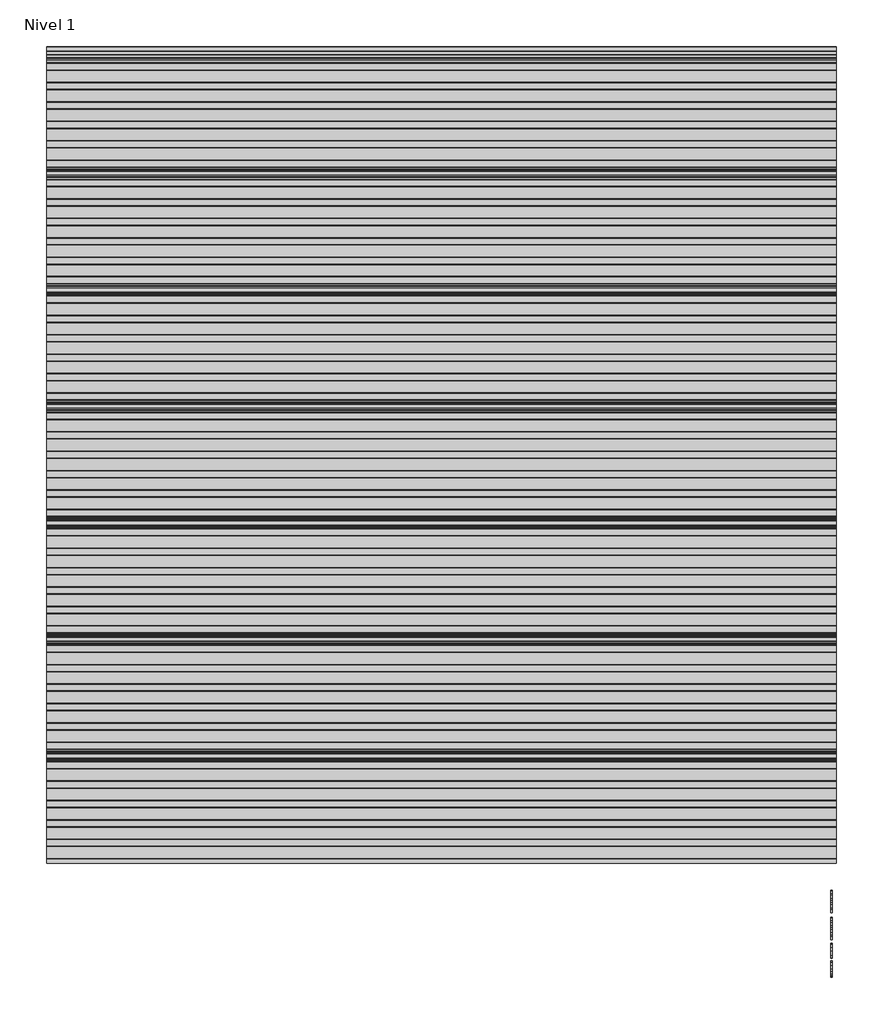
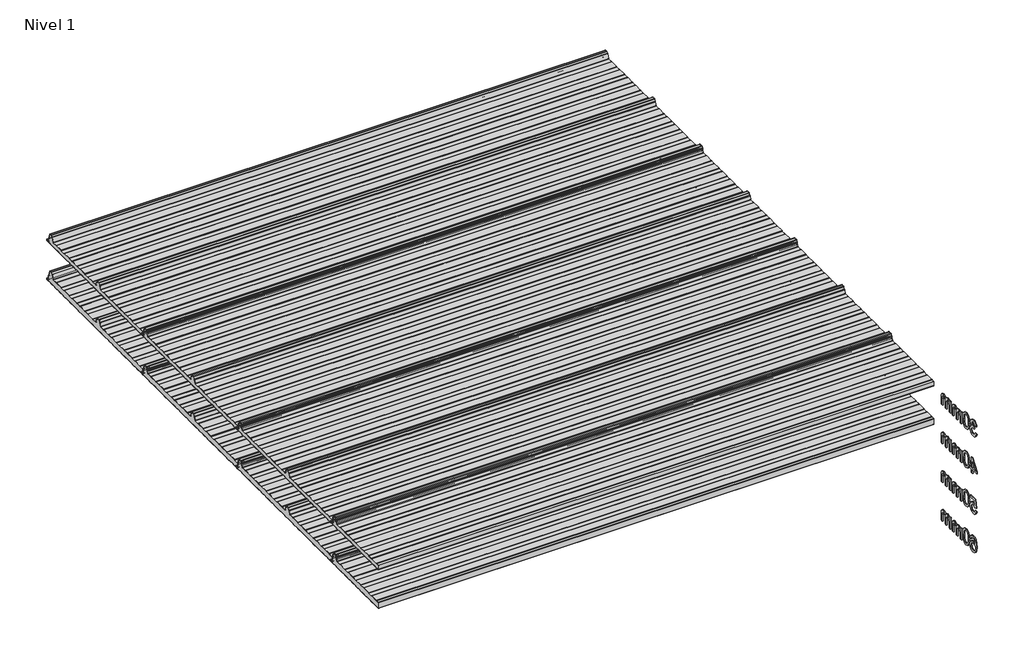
# One storey, incomplete: 8 plates, 4 proxies.
"""IFC4 building model written with IfcOpenShell, lengths in millimetres."""

from ifc_helpers import new_model, si_unit, frame, origin, place, context, project, spatial, polyline, outline, extrude, transform, mapped, element, save
from components import plate_30_mm_89a1664e, plate_30_mm_ab91f54a, plate_30_mm_b6b4653c, plate_40_mm_f33d5fd4, plate_40_mm_e4d21736, plate_40_mm_dbaeaa5f

model = new_model("IFC4")

# Units and contexts
model_context = context("Model", 3, world=origin())
ifc_project = project(units=[si_unit("LENGTHUNIT", "METRE", prefix="MILLI")], contexts=[model_context])

# Site, building, storey
site = spatial("IfcSite", under=ifc_project)
building = spatial("IfcBuilding", under=site)
storey = spatial("IfcBuildingStorey", under=building, Name="Nivel 1", Elevation=0.0)

# Proxies
placement = place(None, origin())
element("IfcBuildingElementProxy", 1, Name="100mm Arial", ObjectType="100mm Arial", at=placement, inside=storey, context=model_context, shape_type="SweptSolid", body=[
    extrude(outline(polyline([(14811.6332666, -40.4578656), (14824.1903054, -38.8882358), (14831.1187496, -52.1074622), (14844.0804586, -56.1541641), (14852.6888973, -54.7623439), (14859.3352987, -50.5868832), (14865.0006814, -36.8035712), (14859.3843496, -23.8173367), (14845.1105282, -18.6792515), (14836.3058858, -20.0526776), (14837.7038373, -7.4956389), (14839.7149256, -7.6427917), (14853.9642215, -4.0375481), (14858.7098993, 0.5364513), (14860.2917918, 7.0479627), (14855.7055296, 16.8704119), (14843.8842549, 20.7576984), (14831.9158273, 16.8336237), (14825.7599352, 5.0613999), (14813.2028965, 6.6310297), (14816.9001105, 17.9066129), (14823.4790669, 26.3249792), (14832.479913, 31.5672976), (14843.4427965, 33.3147371), (14858.5872719, 29.8689091), (14869.1822734, 20.45113), (14872.8488306, 7.7837267), (14869.3662144, -3.7922935), (14859.0655185, -12.1064266), (14872.7507287, -20.6903398), (14877.5577201, -37.0243004), (14875.1542244, -49.2625081), (14867.9437373, -59.4896275), (14857.0605616, -66.405809), (14843.6390002, -68.7112029), (14831.4988943, -66.7430342), (14821.6151314, -60.8385282), (14814.7418695, -51.8070252), (14811.6332666, -40.4578656)])), frame((9557.0230098, 0.0, 0.0), z_axis=(1.0, 0.0, 0.0), x_axis=(0.0, 1.0, 0.0)), (0.0, 0.0, 1.0), 5.0),
    extrude(outline(polyline([(14888.5451291, -17.7227583), (14892.2362118, 11.1805037), (14903.1990952, 27.8455581), (14921.5073558, 33.3147371), (14936.1735847, 30.0773756), (14946.3026023, 20.7454356), (14952.1887142, 5.883003), (14954.4695826, -17.7227583), (14950.8152881, -46.5033931), (14939.8891929, -63.2052357), (14931.6578332, -67.3347111), (14921.5073558, -68.7112029), (14908.4598077, -66.3199699), (14898.5515193, -59.146271), (14891.0467266, -42.1562542), (14888.5451291, -17.7227583)]), holes=[polyline([(14901.1021678, -17.6982329), (14902.5736958, -37.4504303), (14906.9882798, -48.8823633), (14913.5611047, -54.3362139), (14921.5073558, -56.1541641), (14929.4536069, -54.3300825), (14936.0264319, -48.8578379), (14940.4410159, -37.4197735), (14941.9125438, -17.6982329), (14940.4900668, 1.6094405), (14936.2226356, 13.1302783), (14929.6620734, 18.8508433), (14921.360203, 20.7576984), (14913.4997911, 19.0777039), (14907.1844835, 14.0377206), (14902.6227467, 1.7995129), (14901.1021678, -17.6982329)])]), frame((9557.0230098, 0.0, 0.0), z_axis=(1.0, 0.0, 0.0), x_axis=(0.0, 1.0, 0.0)), (0.0, 0.0, 1.0), 5.0),
    extrude(outline(polyline([(14968.5962512, -67.141573), (14968.5962512, 6.6310297), (14981.15329, 6.6310297), (14981.15329, -5.5090761), (14989.7862541, 4.4360005), (15002.0735128, 8.2006596), (15014.655077, 4.3624241), (15021.5712585, -6.3919929), (15031.3691823, 4.5524965), (15043.7422801, 8.2006596), (15053.181519, 6.6831464), (15060.1620798, 2.1306067), (15064.4754962, -5.5795868), (15065.9133017, -16.5700614), (15065.9133017, -67.141573), (15053.3562629, -67.141573), (15053.3562629, -21.965664), (15052.1913033, -11.4810272), (15047.972923, -6.3184165), (15040.7992241, -4.3563792), (15028.4506518, -9.3840998), (15024.7626348, -15.9262679), (15023.5332958, -25.4973312), (15023.5332958, -67.141573), (15010.9762571, -67.141573), (15010.9762571, -20.5677124), (15008.0699893, -8.4030811), (14998.5418456, -4.3563792), (14989.2466939, -7.0541805), (14983.0662764, -14.9513806), (14981.15329, -29.9364406), (14981.15329, -67.141573), (14968.5962512, -67.141573)])), frame((9557.0230098, 0.0, 0.0), z_axis=(1.0, 0.0, 0.0), x_axis=(0.0, 1.0, 0.0)), (0.0, 0.0, 1.0), 5.0),
    extrude(outline(polyline([(15084.7488598, -67.141573), (15084.7488598, 6.6310297), (15097.3058986, 6.6310297), (15097.3058986, -5.5090761), (15105.9388628, 4.4360005), (15118.2261214, 8.2006596), (15130.8076856, 4.3624241), (15137.7238671, -6.3919929), (15147.5217909, 4.5524965), (15159.8948887, 8.2006596), (15169.3341276, 6.6831464), (15176.3146884, 2.1306067), (15180.6281048, -5.5795868), (15182.0659103, -16.5700614), (15182.0659103, -67.141573), (15169.5088715, -67.141573), (15169.5088715, -21.965664), (15168.3439119, -11.4810272), (15164.1255317, -6.3184165), (15156.9518327, -4.3563792), (15144.6032604, -9.3840998), (15140.9152434, -15.9262679), (15139.6859044, -25.4973312), (15139.6859044, -67.141573), (15127.1288657, -67.141573), (15127.1288657, -20.5677124), (15124.2225979, -8.4030811), (15114.6944542, -4.3563792), (15105.3993025, -7.0541805), (15099.218885, -14.9513806), (15097.3058986, -29.9364406), (15097.3058986, -67.141573), (15084.7488598, -67.141573)])), frame((9557.0230098, 0.0, 0.0), z_axis=(1.0, 0.0, 0.0), x_axis=(0.0, 1.0, 0.0)), (0.0, 0.0, 1.0), 5.0),
])
element("IfcBuildingElementProxy", 2, Name="100mm Arial", ObjectType="100mm Arial", at=placement, inside=storey, context=model_context, shape_type="SweptSolid", body=[
    extrude(outline(polyline([(14852.4436426, -317.141573), (14852.4436426, -293.5971253), (14806.9243771, -293.5971253), (14806.9243771, -281.0400866), (14855.5829023, -218.2548927), (14865.0006814, -218.2548927), (14865.0006814, -281.0400866), (14877.5577201, -281.0400866), (14877.5577201, -293.5971253), (14865.0006814, -293.5971253), (14865.0006814, -317.141573), (14852.4436426, -317.141573)]), holes=[polyline([(14852.4436426, -281.0400866), (14852.4436426, -242.2407988), (14822.3754209, -281.0400866), (14852.4436426, -281.0400866)])]), frame((9557.0230098, 0.0, 0.0), z_axis=(1.0, 0.0, 0.0), x_axis=(0.0, 1.0, 0.0)), (0.0, 0.0, 1.0), 5.0),
    extrude(outline(polyline([(14888.5451291, -267.7227583), (14892.2362118, -238.8194963), (14903.1990952, -222.1544419), (14921.5073558, -216.6852629), (14936.1735847, -219.9226244), (14946.3026023, -229.2545644), (14952.1887142, -244.116997), (14954.4695826, -267.7227583), (14950.8152881, -296.5033931), (14939.8891929, -313.2052357), (14931.6578332, -317.3347111), (14921.5073558, -318.7112029), (14908.4598077, -316.3199699), (14898.5515193, -309.146271), (14891.0467266, -292.1562542), (14888.5451291, -267.7227583)]), holes=[polyline([(14901.1021678, -267.6982329), (14902.5736958, -287.4504303), (14906.9882798, -298.8823633), (14913.5611047, -304.3362139), (14921.5073558, -306.1541641), (14929.4536069, -304.3300825), (14936.0264319, -298.8578379), (14940.4410159, -287.4197735), (14941.9125438, -267.6982329), (14940.4900668, -248.3905595), (14936.2226356, -236.8697217), (14929.6620734, -231.1491567), (14921.360203, -229.2423016), (14913.4997911, -230.9222961), (14907.1844835, -235.9622794), (14902.6227467, -248.2004871), (14901.1021678, -267.6982329)])]), frame((9557.0230098, 0.0, 0.0), z_axis=(1.0, 0.0, 0.0), x_axis=(0.0, 1.0, 0.0)), (0.0, 0.0, 1.0), 5.0),
    extrude(outline(polyline([(14968.5962512, -317.141573), (14968.5962512, -243.3689703), (14981.15329, -243.3689703), (14981.15329, -255.5090761), (14989.7862541, -245.5639995), (15002.0735128, -241.7993404), (15014.655077, -245.6375759), (15021.5712585, -256.3919929), (15031.3691823, -245.4475035), (15043.7422801, -241.7993404), (15053.181519, -243.3168536), (15060.1620798, -247.8693933), (15064.4754962, -255.5795868), (15065.9133017, -266.5700614), (15065.9133017, -317.141573), (15053.3562629, -317.141573), (15053.3562629, -271.965664), (15052.1913033, -261.4810272), (15047.972923, -256.3184165), (15040.7992241, -254.3563792), (15028.4506518, -259.3840998), (15024.7626348, -265.9262679), (15023.5332958, -275.4973312), (15023.5332958, -317.141573), (15010.9762571, -317.141573), (15010.9762571, -270.5677124), (15008.0699893, -258.4030811), (14998.5418456, -254.3563792), (14989.2466939, -257.0541805), (14983.0662764, -264.9513806), (14981.15329, -279.9364406), (14981.15329, -317.141573), (14968.5962512, -317.141573)])), frame((9557.0230098, 0.0, 0.0), z_axis=(1.0, 0.0, 0.0), x_axis=(0.0, 1.0, 0.0)), (0.0, 0.0, 1.0), 5.0),
    extrude(outline(polyline([(15084.7488598, -317.141573), (15084.7488598, -243.3689703), (15097.3058986, -243.3689703), (15097.3058986, -255.5090761), (15105.9388628, -245.5639995), (15118.2261214, -241.7993404), (15130.8076856, -245.6375759), (15137.7238671, -256.3919929), (15147.5217909, -245.4475035), (15159.8948887, -241.7993404), (15169.3341276, -243.3168536), (15176.3146884, -247.8693933), (15180.6281048, -255.5795868), (15182.0659103, -266.5700614), (15182.0659103, -317.141573), (15169.5088715, -317.141573), (15169.5088715, -271.965664), (15168.3439119, -261.4810272), (15164.1255317, -256.3184165), (15156.9518327, -254.3563792), (15144.6032604, -259.3840998), (15140.9152434, -265.9262679), (15139.6859044, -275.4973312), (15139.6859044, -317.141573), (15127.1288657, -317.141573), (15127.1288657, -270.5677124), (15124.2225979, -258.4030811), (15114.6944542, -254.3563792), (15105.3993025, -257.0541805), (15099.218885, -264.9513806), (15097.3058986, -279.9364406), (15097.3058986, -317.141573), (15084.7488598, -317.141573)])), frame((9557.0230098, 0.0, 0.0), z_axis=(1.0, 0.0, 0.0), x_axis=(0.0, 1.0, 0.0)), (0.0, 0.0, 1.0), 5.0),
])
element("IfcBuildingElementProxy", 3, Name="100mm Arial", ObjectType="100mm Arial", at=placement, inside=storey, context=model_context, shape_type="SweptSolid", body=[
    extrude(outline(polyline([(14811.6332666, -540.4578656), (14824.1903054, -538.8882358), (14830.5178757, -551.8254193), (14843.6390002, -556.1541641), (14852.6398463, -554.6489136), (14859.3843496, -550.1331621), (14863.5965984, -543.1280758), (14865.0006814, -534.1548208), (14859.7399688, -519.2433373), (14853.1334213, -515.141453), (14843.8352039, -513.7741583), (14832.8110068, -515.9569248), (14825.7599352, -521.6223075), (14813.2028965, -520.0526776), (14824.1903054, -468.2548927), (14872.8488306, -468.2548927), (14872.8488306, -480.8119315), (14834.3438484, -480.8119315), (14828.9727713, -508.4766575), (14837.9429606, -503.032004), (14847.3423456, -501.2171195), (14859.0747156, -503.467331), (14868.8143914, -510.2179656), (14875.371888, -520.5063988), (14877.5577201, -533.3700059), (14875.5895515, -545.9270446), (14869.6850454, -556.6691989), (14858.3788055, -565.7007019), (14843.5899493, -568.7112029), (14831.2567054, -566.7767567), (14821.4311904, -560.9734182), (14814.6958842, -551.9756378), (14811.6332666, -540.4578656)])), frame((9557.0230098, 0.0, 0.0), z_axis=(1.0, 0.0, 0.0), x_axis=(0.0, 1.0, 0.0)), (0.0, 0.0, 1.0), 5.0),
    extrude(outline(polyline([(14888.5451291, -517.7227583), (14892.2362118, -488.8194963), (14903.1990952, -472.1544419), (14921.5073558, -466.6852629), (14936.1735847, -469.9226244), (14946.3026023, -479.2545644), (14952.1887142, -494.116997), (14954.4695826, -517.7227583), (14950.8152881, -546.5033931), (14939.8891929, -563.2052357), (14931.6578332, -567.3347111), (14921.5073558, -568.7112029), (14908.4598077, -566.3199699), (14898.5515193, -559.146271), (14891.0467266, -542.1562542), (14888.5451291, -517.7227583)]), holes=[polyline([(14901.1021678, -517.6982329), (14902.5736958, -537.4504303), (14906.9882798, -548.8823633), (14913.5611047, -554.3362139), (14921.5073558, -556.1541641), (14929.4536069, -554.3300825), (14936.0264319, -548.8578379), (14940.4410159, -537.4197735), (14941.9125438, -517.6982329), (14940.4900668, -498.3905595), (14936.2226356, -486.8697217), (14929.6620734, -481.1491567), (14921.360203, -479.2423016), (14913.4997911, -480.9222961), (14907.1844835, -485.9622794), (14902.6227467, -498.2004871), (14901.1021678, -517.6982329)])]), frame((9557.0230098, 0.0, 0.0), z_axis=(1.0, 0.0, 0.0), x_axis=(0.0, 1.0, 0.0)), (0.0, 0.0, 1.0), 5.0),
    extrude(outline(polyline([(14968.5962512, -567.141573), (14968.5962512, -493.3689703), (14981.15329, -493.3689703), (14981.15329, -505.5090761), (14989.7862541, -495.5639995), (15002.0735128, -491.7993404), (15014.655077, -495.6375759), (15021.5712585, -506.3919929), (15031.3691823, -495.4475035), (15043.7422801, -491.7993404), (15053.181519, -493.3168536), (15060.1620798, -497.8693933), (15064.4754962, -505.5795868), (15065.9133017, -516.5700614), (15065.9133017, -567.141573), (15053.3562629, -567.141573), (15053.3562629, -521.965664), (15052.1913033, -511.4810272), (15047.972923, -506.3184165), (15040.7992241, -504.3563792), (15028.4506518, -509.3840998), (15024.7626348, -515.9262679), (15023.5332958, -525.4973312), (15023.5332958, -567.141573), (15010.9762571, -567.141573), (15010.9762571, -520.5677124), (15008.0699893, -508.4030811), (14998.5418456, -504.3563792), (14989.2466939, -507.0541805), (14983.0662764, -514.9513806), (14981.15329, -529.9364406), (14981.15329, -567.141573), (14968.5962512, -567.141573)])), frame((9557.0230098, 0.0, 0.0), z_axis=(1.0, 0.0, 0.0), x_axis=(0.0, 1.0, 0.0)), (0.0, 0.0, 1.0), 5.0),
    extrude(outline(polyline([(15084.7488598, -567.141573), (15084.7488598, -493.3689703), (15097.3058986, -493.3689703), (15097.3058986, -505.5090761), (15105.9388628, -495.5639995), (15118.2261214, -491.7993404), (15130.8076856, -495.6375759), (15137.7238671, -506.3919929), (15147.5217909, -495.4475035), (15159.8948887, -491.7993404), (15169.3341276, -493.3168536), (15176.3146884, -497.8693933), (15180.6281048, -505.5795868), (15182.0659103, -516.5700614), (15182.0659103, -567.141573), (15169.5088715, -567.141573), (15169.5088715, -521.965664), (15168.3439119, -511.4810272), (15164.1255317, -506.3184165), (15156.9518327, -504.3563792), (15144.6032604, -509.3840998), (15140.9152434, -515.9262679), (15139.6859044, -525.4973312), (15139.6859044, -567.141573), (15127.1288657, -567.141573), (15127.1288657, -520.5677124), (15124.2225979, -508.4030811), (15114.6944542, -504.3563792), (15105.3993025, -507.0541805), (15099.218885, -514.9513806), (15097.3058986, -529.9364406), (15097.3058986, -567.141573), (15084.7488598, -567.141573)])), frame((9557.0230098, 0.0, 0.0), z_axis=(1.0, 0.0, 0.0), x_axis=(0.0, 1.0, 0.0)), (0.0, 0.0, 1.0), 5.0),
])
element("IfcBuildingElementProxy", 4, Name="100mm Arial", ObjectType="100mm Arial", at=placement, inside=storey, context=model_context, shape_type="SweptSolid", body=[
    extrude(outline(polyline([(14875.9880903, -743.3689703), (14863.4310515, -744.9386001), (14858.6731111, -734.466226), (14846.0915468, -729.2423016), (14834.7607814, -732.2834595), (14826.1891309, -743.7000641), (14822.6206755, -766.0795521), (14833.6939236, -756.0608991), (14847.415922, -752.7867493), (14859.0164676, -755.0246981), (14868.7530777, -761.7385446), (14875.3565595, -771.9963209), (14877.5577201, -784.8660593), (14873.4129163, -802.1933013), (14862.0085745, -814.4560345), (14845.5519866, -818.7112029), (14831.3057563, -815.8907742), (14819.9596624, -807.4294884), (14812.5376432, -792.4934794), (14810.0636368, -770.2488814), (14812.810489, -745.2390371), (14821.0510457, -728.1386557), (14832.3021034, -719.5486111), (14846.8763617, -716.6852629), (14857.8944275, -718.4572278), (14866.717464, -723.7731227), (14872.8978815, -732.2160144), (14875.9880903, -743.3689703)]), holes=[polyline([(14822.6206755, -784.6698556), (14825.5269433, -795.5468999), (14833.2524652, -803.4441001), (14844.5709679, -806.1541641), (14852.8575099, -804.7500812), (14859.3720868, -800.5378323), (14863.5935327, -793.9159564), (14865.0006814, -785.2829922), (14863.6119268, -776.9964503), (14859.4456632, -770.678077), (14852.8207217, -766.6773603), (14844.0559331, -765.3437881), (14828.8624067, -770.678077), (14824.1811083, -776.8431661), (14822.6206755, -784.6698556)])]), frame((9557.0230098, 0.0, 0.0), z_axis=(1.0, 0.0, 0.0), x_axis=(0.0, 1.0, 0.0)), (0.0, 0.0, 1.0), 5.0),
    extrude(outline(polyline([(14888.5451291, -767.7227583), (14892.2362118, -738.8194963), (14903.1990952, -722.1544419), (14921.5073558, -716.6852629), (14936.1735847, -719.9226244), (14946.3026023, -729.2545644), (14952.1887142, -744.116997), (14954.4695826, -767.7227583), (14950.8152881, -796.5033931), (14939.8891929, -813.2052357), (14931.6578332, -817.3347111), (14921.5073558, -818.7112029), (14908.4598077, -816.3199699), (14898.5515193, -809.146271), (14891.0467266, -792.1562542), (14888.5451291, -767.7227583)]), holes=[polyline([(14901.1021678, -767.6982329), (14902.5736958, -787.4504303), (14906.9882798, -798.8823633), (14913.5611047, -804.3362139), (14921.5073558, -806.1541641), (14929.4536069, -804.3300825), (14936.0264319, -798.8578379), (14940.4410159, -787.4197735), (14941.9125438, -767.6982329), (14940.4900668, -748.3905595), (14936.2226356, -736.8697217), (14929.6620734, -731.1491567), (14921.360203, -729.2423016), (14913.4997911, -730.9222961), (14907.1844835, -735.9622794), (14902.6227467, -748.2004871), (14901.1021678, -767.6982329)])]), frame((9557.0230098, 0.0, 0.0), z_axis=(1.0, 0.0, 0.0), x_axis=(0.0, 1.0, 0.0)), (0.0, 0.0, 1.0), 5.0),
    extrude(outline(polyline([(14968.5962512, -817.141573), (14968.5962512, -743.3689703), (14981.15329, -743.3689703), (14981.15329, -755.5090761), (14989.7862541, -745.5639995), (15002.0735128, -741.7993404), (15014.655077, -745.6375759), (15021.5712585, -756.3919929), (15031.3691823, -745.4475035), (15043.7422801, -741.7993404), (15053.181519, -743.3168536), (15060.1620798, -747.8693933), (15064.4754962, -755.5795868), (15065.9133017, -766.5700614), (15065.9133017, -817.141573), (15053.3562629, -817.141573), (15053.3562629, -771.965664), (15052.1913033, -761.4810272), (15047.972923, -756.3184165), (15040.7992241, -754.3563792), (15028.4506518, -759.3840998), (15024.7626348, -765.9262679), (15023.5332958, -775.4973312), (15023.5332958, -817.141573), (15010.9762571, -817.141573), (15010.9762571, -770.5677124), (15008.0699893, -758.4030811), (14998.5418456, -754.3563792), (14989.2466939, -757.0541805), (14983.0662764, -764.9513806), (14981.15329, -779.9364406), (14981.15329, -817.141573), (14968.5962512, -817.141573)])), frame((9557.0230098, 0.0, 0.0), z_axis=(1.0, 0.0, 0.0), x_axis=(0.0, 1.0, 0.0)), (0.0, 0.0, 1.0), 5.0),
    extrude(outline(polyline([(15084.7488598, -817.141573), (15084.7488598, -743.3689703), (15097.3058986, -743.3689703), (15097.3058986, -755.5090761), (15105.9388628, -745.5639995), (15118.2261214, -741.7993404), (15130.8076856, -745.6375759), (15137.7238671, -756.3919929), (15147.5217909, -745.4475035), (15159.8948887, -741.7993404), (15169.3341276, -743.3168536), (15176.3146884, -747.8693933), (15180.6281048, -755.5795868), (15182.0659103, -766.5700614), (15182.0659103, -817.141573), (15169.5088715, -817.141573), (15169.5088715, -771.965664), (15168.3439119, -761.4810272), (15164.1255317, -756.3184165), (15156.9518327, -754.3563792), (15144.6032604, -759.3840998), (15140.9152434, -765.9262679), (15139.6859044, -775.4973312), (15139.6859044, -817.141573), (15127.1288657, -817.141573), (15127.1288657, -770.5677124), (15124.2225979, -758.4030811), (15114.6944542, -754.3563792), (15105.3993025, -757.0541805), (15099.218885, -764.9513806), (15097.3058986, -779.9364406), (15097.3058986, -817.141573), (15084.7488598, -817.141573)])), frame((9557.0230098, 0.0, 0.0), z_axis=(1.0, 0.0, 0.0), x_axis=(0.0, 1.0, 0.0)), (0.0, 0.0, 1.0), 5.0),
])

# Plates
plate_30_mm_shape = plate_30_mm_89a1664e(model_context)
plate_30_mm_2_shape = plate_30_mm_ab91f54a(model_context)
element("IfcPlate", 5, ObjectType="HIANSA PANEL - H20.F01.004-PANELES DE CUBIERTA SIN TAPAJUNTA - EASY CUB 3GR - Panel de Muro Cortina : 30 mm", at=placement, inside=storey, context=model_context, shape_type="MappedRepresentation", body=[
    mapped(plate_30_mm_shape, transform((9579.0356399, 18298.3330794, -29.5962409), x_axis=(0.0, -1.0, 0.0), y_axis=(0.0, 0.0, 1.0), z_axis=(-1.0, 0.0, 0.0))),
    mapped(plate_30_mm_2_shape, transform((9579.0356399, 18298.3330794, -29.5962409), x_axis=(0.0, -1.0, 0.0), y_axis=(0.0, 0.0, 1.0), z_axis=(-1.0, 0.0, 0.0))),
])
element("IfcPlate", 6, ObjectType="HIANSA PANEL - H20.F01.004-PANELES DE CUBIERTA SIN TAPAJUNTA - EASY CUB 3GR - Panel de Muro Cortina : 30 mm", at=placement, inside=storey, context=model_context, shape_type="MappedRepresentation", body=[
    mapped(plate_30_mm_shape, transform((9579.0356399, 17298.3330793, -29.5962409), x_axis=(0.0, -1.0, 0.0), y_axis=(0.0, 0.0, 1.0), z_axis=(-1.0, 0.0, 0.0))),
    mapped(plate_30_mm_2_shape, transform((9579.0356399, 17298.3330793, -29.5962409), x_axis=(0.0, -1.0, 0.0), y_axis=(0.0, 0.0, 1.0), z_axis=(-1.0, 0.0, 0.0))),
])
element("IfcPlate", 7, ObjectType="HIANSA PANEL - H20.F01.004-PANELES DE CUBIERTA SIN TAPAJUNTA - EASY CUB 3GR - Panel de Muro Cortina : 30 mm", at=placement, inside=storey, context=model_context, shape_type="MappedRepresentation", body=[
    mapped(plate_30_mm_shape, transform((9579.0356399, 16298.3330793, -29.5962409), x_axis=(0.0, -1.0, 0.0), y_axis=(0.0, 0.0, 1.0), z_axis=(-1.0, 0.0, 0.0))),
    mapped(plate_30_mm_2_shape, transform((9579.0356399, 16298.3330793, -29.5962409), x_axis=(0.0, -1.0, 0.0), y_axis=(0.0, 0.0, 1.0), z_axis=(-1.0, 0.0, 0.0))),
])
plate_30_mm_3_shape = plate_30_mm_b6b4653c(model_context)
element("IfcPlate", 8, ObjectType="HIANSA PANEL - H20.F01.004-PANELES DE CUBIERTA SIN TAPAJUNTA - EASY CUB 3GR - Panel de Muro Cortina : 30 mm", at=placement, inside=storey, context=model_context, shape_type="MappedRepresentation", body=[
    mapped(plate_30_mm_3_shape, transform((9579.0356399, 15548.3330794, -29.5962409), x_axis=(0.0, -1.0, 0.0), y_axis=(0.0, 0.0, 1.0), z_axis=(-1.0, 0.0, 0.0))),
])
plate_40_mm_shape = plate_40_mm_f33d5fd4(model_context)
plate_40_mm_2_shape = plate_40_mm_e4d21736(model_context)
element("IfcPlate", 9, ObjectType="HIANSA PANEL - H20.F01.004-PANELES DE CUBIERTA SIN TAPAJUNTA - EASY CUB 3GR - Panel de Muro Cortina : 40 mm", at=placement, inside=storey, context=model_context, shape_type="MappedRepresentation", body=[
    mapped(plate_40_mm_shape, transform((9579.0356399, 18298.3330794, -279.5962409), x_axis=(0.0, -1.0, 0.0), y_axis=(0.0, 0.0, 1.0), z_axis=(-1.0, 0.0, 0.0))),
    mapped(plate_40_mm_2_shape, transform((9579.0356399, 18298.3330794, -279.5962409), x_axis=(0.0, -1.0, 0.0), y_axis=(0.0, 0.0, 1.0), z_axis=(-1.0, 0.0, 0.0))),
])
element("IfcPlate", 10, ObjectType="HIANSA PANEL - H20.F01.004-PANELES DE CUBIERTA SIN TAPAJUNTA - EASY CUB 3GR - Panel de Muro Cortina : 40 mm", at=placement, inside=storey, context=model_context, shape_type="MappedRepresentation", body=[
    mapped(plate_40_mm_shape, transform((9579.0356399, 17298.3330793, -279.5962409), x_axis=(0.0, -1.0, 0.0), y_axis=(0.0, 0.0, 1.0), z_axis=(-1.0, 0.0, 0.0))),
    mapped(plate_40_mm_2_shape, transform((9579.0356399, 17298.3330793, -279.5962409), x_axis=(0.0, -1.0, 0.0), y_axis=(0.0, 0.0, 1.0), z_axis=(-1.0, 0.0, 0.0))),
])
element("IfcPlate", 11, ObjectType="HIANSA PANEL - H20.F01.004-PANELES DE CUBIERTA SIN TAPAJUNTA - EASY CUB 3GR - Panel de Muro Cortina : 40 mm", at=placement, inside=storey, context=model_context, shape_type="MappedRepresentation", body=[
    mapped(plate_40_mm_shape, transform((9579.0356399, 16298.3330793, -279.5962409), x_axis=(0.0, -1.0, 0.0), y_axis=(0.0, 0.0, 1.0), z_axis=(-1.0, 0.0, 0.0))),
    mapped(plate_40_mm_2_shape, transform((9579.0356399, 16298.3330793, -279.5962409), x_axis=(0.0, -1.0, 0.0), y_axis=(0.0, 0.0, 1.0), z_axis=(-1.0, 0.0, 0.0))),
])
plate_40_mm_3_shape = plate_40_mm_dbaeaa5f(model_context)
element("IfcPlate", 12, ObjectType="HIANSA PANEL - H20.F01.004-PANELES DE CUBIERTA SIN TAPAJUNTA - EASY CUB 3GR - Panel de Muro Cortina : 40 mm", at=placement, inside=storey, context=model_context, shape_type="MappedRepresentation", body=[
    mapped(plate_40_mm_3_shape, transform((9579.0356399, 15548.3330794, -279.5962409), x_axis=(0.0, -1.0, 0.0), y_axis=(0.0, 0.0, 1.0), z_axis=(-1.0, 0.0, 0.0))),
])

save(model, "model.ifc")
